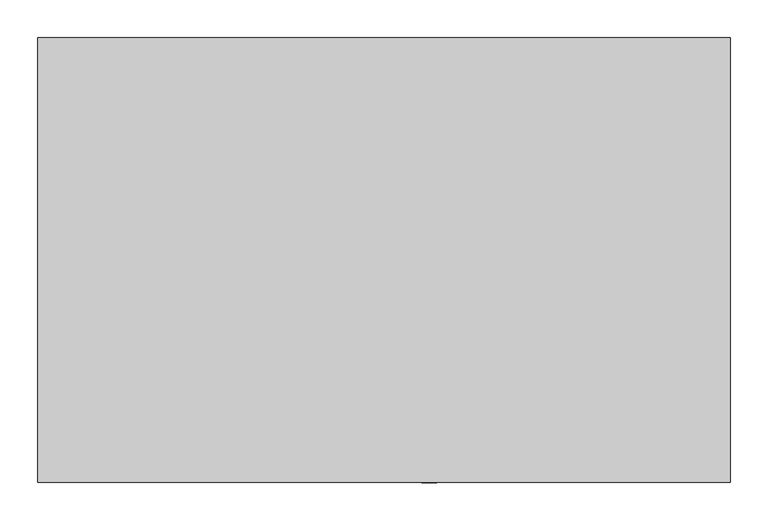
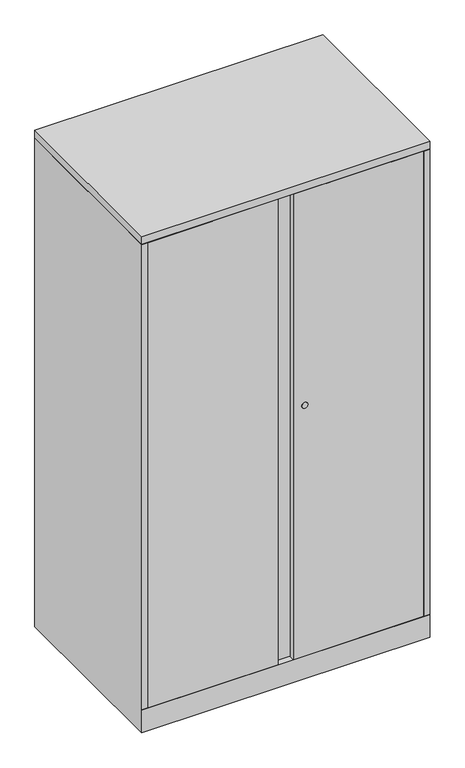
"""IFC4 building model written with IfcOpenShell, lengths in millimetres: furniture geometry, Steelcase - Universal Storage - Cabinet - Storage - 66H-84H - Flush Steel : 65 1/2H x 23 1/8D x 36W."""

from ifc_helpers import new_model, si_unit, point, frame, frame_2d, origin, place, context, project, spatial, polyline, circle_curve, trimmed, segment, composite_curve, outline, extrude, faceted_brep, source, transform, mapped, element, save


def furniture_fb5b57bd(model_context):
    return source(origin(), model_context, "Body", "SolidModel", [
        extrude(outline(polyline([(914.4, 0.0), (914.4, -587.502), (0.0, -587.502), (0.0, 0.0), (914.4, 0.0)])), frame((0.0, 0.0, 1638.3), z_axis=(0.0, 0.0, 1.0), x_axis=(1.0, 0.0, 0.0)), (0.0, 0.0, 1.0), 25.4000484),
        extrude(outline(composite_curve([segment(trimmed(circle_curve(frame_2d((917.575, 517.0109835)), 9.7167829), [point((917.575, 526.7277664))], [point((917.575, 507.2942006))], False, "CARTESIAN"), True, "CONTINUOUS"), segment(trimmed(circle_curve(frame_2d((917.575, 517.0109835)), 9.7167829), [point((917.575, 507.2942006))], [point((917.575, 526.7277664))], False, "CARTESIAN"), True, "CONTINUOUS")], self_intersect=False)), frame((0.0, -588.1715275, 0.0), z_axis=(0.0, 1.0, 0.0), x_axis=(0.0, 0.0, 1.0)), (0.0, 0.0, 1.0), 0.6695275),
        extrude(outline(polyline([(20.8280006, -561.975866), (893.572, -561.975866), (893.572, -587.502), (481.33, -587.502), (481.33, -568.3258781), (433.07, -568.3258781), (433.07, -587.502), (20.8280006, -587.502), (20.8280006, -561.975866)])), frame((0.0, 0.0, 77.724), z_axis=(0.0, 0.0, 1.0), x_axis=(1.0, 0.0, 0.0)), (0.0, 0.0, 1.0), 1559.052),
        faceted_brep([(914.4, 0.0, 0.0), (914.4, -587.502, 0.0), (0.0, -587.502, 0.0), (0.0, 0.0, 0.0), (0.0, 0.0, 1636.776), (914.4, 0.0, 1636.776), (0.0, -587.502, 76.2), (0.0, -587.502, 77.724), (0.0, -587.502, 1636.776), (914.4, -587.502, 76.2), (914.4, -587.502, 1636.776), (914.4, -587.502, 77.724), (889.0000242, -25.4000008, 1636.776), (889.0000242, -560.4518674, 1636.776), (893.572, -560.4518674, 1636.776), (893.572, -561.9758781, 1636.776), (895.096, -561.9758781, 1636.776), (895.096, -587.502, 1636.776), (19.304, -587.502, 1636.776), (19.304, -561.975866, 1636.776), (20.8280006, -561.975866, 1636.776), (20.8280006, -560.4518674, 1636.776), (25.4000008, -560.4518674, 1636.776), (25.4000008, -25.4000008, 1636.776), (19.304, -587.502, 77.724), (19.304, -568.198, 77.724), (895.096, -587.502, 77.724), (895.096, -568.0718418, 77.724), (889.0000242, -25.4000008, 77.724), (889.0000242, -560.4518674, 77.724), (893.572, -560.4518674, 77.724), (893.572, -561.9758781, 77.724), (895.096, -561.9758781, 77.724), (19.304, -561.975866, 77.724), (20.8280006, -561.975866, 77.724), (20.8280006, -560.4518674, 77.724), (25.4000008, -560.4518674, 77.724), (25.4000008, -25.4000008, 77.724), (25.526134, -561.975866, 77.724), (889.0000242, -561.975866, 77.724)], [[[0, 1, 2, 3]], [[0, 3, 4, 5]], [[4, 3, 2, 6, 7, 8]], [[2, 1, 9, 6]], [[1, 0, 5, 10, 11, 9]], [[12, 13, 14, 15, 16, 17, 10, 5, 4, 8, 18, 19, 20, 21, 22, 23]], [[24, 7, 25]], [[11, 26, 27]], [[13, 12, 28, 29]], [[14, 13, 29, 30]], [[15, 14, 30, 31]], [[16, 15, 31, 32]], [[17, 16, 32, 27, 26]], [[10, 17, 26, 11]], [[18, 8, 7, 24]], [[19, 18, 24, 25, 33]], [[20, 19, 33, 34]], [[21, 20, 34, 35]], [[22, 21, 35, 36]], [[23, 22, 36, 37]], [[12, 23, 37, 28]], [[38, 39, 27, 32, 31, 30, 29, 28, 37, 36, 35, 34, 33, 25]], [[7, 6, 38, 25]], [[39, 38, 6, 9]], [[39, 9, 11, 27]]]),
    ])


if __name__ == "__main__":
    model = new_model("IFC4")
    model_context = context("Model", 3, world=origin())
    ifc_project = project(units=[si_unit("LENGTHUNIT", "METRE", prefix="MILLI")], contexts=[model_context])
    site = spatial("IfcSite", under=ifc_project)
    building = spatial("IfcBuilding", under=site)
    placement = place(None, origin())
    furniture_shape = furniture_fb5b57bd(model_context)
    element("IfcFurniture", 1, ObjectType="Steelcase - Universal Storage - Cabinet - Storage - 66H-84H - Flush Steel : 65 1/2H x 23 1/8D x 36W", at=placement, inside=building, context=model_context, shape_type="MappedRepresentation", body=[
        mapped(furniture_shape, transform((0.0, 0.0, 0.0), x_axis=(1.0, 0.0, 0.0), y_axis=(0.0, 1.0, 0.0), z_axis=(0.0, 0.0, 1.0))),
    ])
    save(model, "model.ifc")
